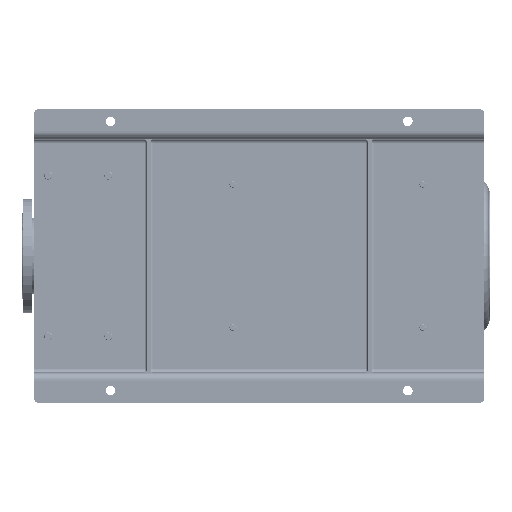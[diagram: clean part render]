
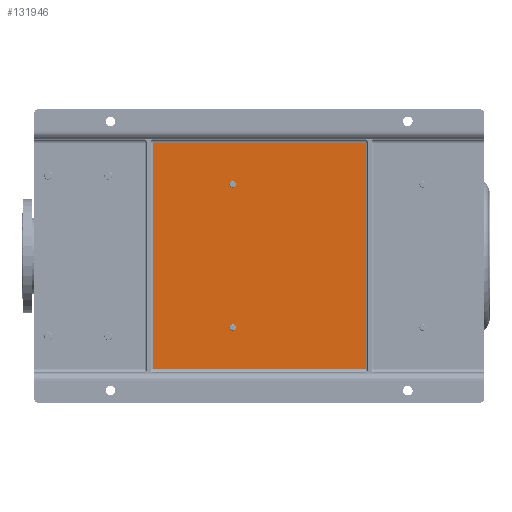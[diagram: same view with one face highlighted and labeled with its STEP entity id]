
A CAD part, front view. The second image highlights one B-rep face of the part: STEP entity #131946.
In plain terms, the highlighted planar face has unit normal (0, -1, 0).
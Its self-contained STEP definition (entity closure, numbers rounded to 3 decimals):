
#3304 = ORIENTED_EDGE ( 'NONE', *, *, #82118, .T. ) ;
#5114 = VERTEX_POINT ( 'NONE', #6444 ) ;
#6444 = CARTESIAN_POINT ( 'NONE',  ( 543., 90., -486. ) ) ;
#7674 = VECTOR ( 'NONE', #151128, 1000. ) ;
#8920 = AXIS2_PLACEMENT_3D ( 'NONE', #171660, #127700, #141768 ) ;
#11557 = CARTESIAN_POINT ( 'NONE',  ( 75., 90., -1120. ) ) ;
#12179 = VERTEX_POINT ( 'NONE', #46705 ) ;
#13181 = CIRCLE ( 'NONE', #114500, 8. ) ;
#14027 = DIRECTION ( 'NONE',  ( 0., 0., -1. ) ) ;
#15426 = EDGE_LOOP ( 'NONE', ( #3304, #104001, #92317, #24736 ) ) ;
#15438 = CARTESIAN_POINT ( 'NONE',  ( 645., 90., -290. ) ) ;
#15703 = EDGE_LOOP ( 'NONE', ( #69291, #165234 ) ) ;
#15785 = DIRECTION ( 'NONE',  ( 0., 1., 0. ) ) ;
#20104 = CIRCLE ( 'NONE', #118547, 8. ) ;
#23729 = CARTESIAN_POINT ( 'NONE',  ( 85., 90., -295. ) ) ;
#24736 = ORIENTED_EDGE ( 'NONE', *, *, #35297, .T. ) ;
#25675 = FACE_BOUND ( 'NONE', #15703, .T. ) ;
#27423 = FACE_BOUND ( 'NONE', #46628, .T. ) ;
#28551 = CARTESIAN_POINT ( 'NONE',  ( 85., 90., -825. ) ) ;
#29176 = FACE_OUTER_BOUND ( 'NONE', #15426, .T. ) ;
#31501 = VECTOR ( 'NONE', #54388, 1000. ) ;
#35297 = EDGE_CURVE ( 'NONE', #12179, #123826, #173335, .T. ) ;
#41283 = DIRECTION ( 'NONE',  ( 0., 1., 0. ) ) ;
#41523 = VERTEX_POINT ( 'NONE', #152762 ) ;
#41541 = CARTESIAN_POINT ( 'NONE',  ( 543., 90., -502. ) ) ;
#46513 = EDGE_CURVE ( 'NONE', #152435, #85852, #148388, .T. ) ;
#46628 = EDGE_LOOP ( 'NONE', ( #148283, #53035 ) ) ;
#46705 = CARTESIAN_POINT ( 'NONE',  ( 645., 90., -295. ) ) ;
#46735 = DIRECTION ( 'NONE',  ( 0., 1., 0. ) ) ;
#53035 = ORIENTED_EDGE ( 'NONE', *, *, #135675, .T. ) ;
#54388 = DIRECTION ( 'NONE',  ( -1., 0., 0. ) ) ;
#56048 = DIRECTION ( 'NONE',  ( 1., 0., 0. ) ) ;
#59698 = CIRCLE ( 'NONE', #8920, 8. ) ;
#66461 = VECTOR ( 'NONE', #137308, 1000. ) ;
#68458 = CARTESIAN_POINT ( 'NONE',  ( 75., 90., -295. ) ) ;
#68629 = LINE ( 'NONE', #83594, #66461 ) ;
#69291 = ORIENTED_EDGE ( 'NONE', *, *, #128184, .T. ) ;
#72271 = CARTESIAN_POINT ( 'NONE',  ( 187., 90., -494. ) ) ;
#72762 = EDGE_CURVE ( 'NONE', #142000, #5114, #20104, .T. ) ;
#75338 = AXIS2_PLACEMENT_3D ( 'NONE', #72271, #46735, #155035 ) ;
#81166 = DIRECTION ( 'NONE',  ( 0., -1., 0. ) ) ;
#82118 = EDGE_CURVE ( 'NONE', #123826, #126593, #68629, .T. ) ;
#83594 = CARTESIAN_POINT ( 'NONE',  ( 85., 90., -830. ) ) ;
#83929 = CARTESIAN_POINT ( 'NONE',  ( 187., 90., -502. ) ) ;
#85852 = VERTEX_POINT ( 'NONE', #83929 ) ;
#91049 = CARTESIAN_POINT ( 'NONE',  ( 187., 90., -486. ) ) ;
#92317 = ORIENTED_EDGE ( 'NONE', *, *, #92701, .T. ) ;
#92701 = EDGE_CURVE ( 'NONE', #41523, #12179, #97416, .T. ) ;
#94544 = VECTOR ( 'NONE', #56048, 1000. ) ;
#97416 = LINE ( 'NONE', #15438, #7674 ) ;
#104001 = ORIENTED_EDGE ( 'NONE', *, *, #158665, .T. ) ;
#108488 = DIRECTION ( 'NONE',  ( 0., 0., -1. ) ) ;
#108903 = LINE ( 'NONE', #114761, #94544 ) ;
#109083 = CARTESIAN_POINT ( 'NONE',  ( 543., 90., -494. ) ) ;
#114500 = AXIS2_PLACEMENT_3D ( 'NONE', #134753, #15785, #14027 ) ;
#114761 = CARTESIAN_POINT ( 'NONE',  ( 75., 90., -825. ) ) ;
#118547 = AXIS2_PLACEMENT_3D ( 'NONE', #109083, #41283, #148713 ) ;
#122179 = AXIS2_PLACEMENT_3D ( 'NONE', #11557, #81166, #108488 ) ;
#123826 = VERTEX_POINT ( 'NONE', #23729 ) ;
#126593 = VERTEX_POINT ( 'NONE', #28551 ) ;
#127700 = DIRECTION ( 'NONE',  ( 0., 1., 0. ) ) ;
#128184 = EDGE_CURVE ( 'NONE', #5114, #142000, #59698, .T. ) ;
#131946 = ADVANCED_FACE ( 'NONE', ( #25675, #27423, #29176 ), #135761, .T. ) ;
#134753 = CARTESIAN_POINT ( 'NONE',  ( 187., 90., -494. ) ) ;
#135675 = EDGE_CURVE ( 'NONE', #85852, #152435, #13181, .T. ) ;
#135761 = PLANE ( 'NONE',  #122179 ) ;
#137308 = DIRECTION ( 'NONE',  ( 0., 0., -1. ) ) ;
#141768 = DIRECTION ( 'NONE',  ( 0., 0., 1. ) ) ;
#142000 = VERTEX_POINT ( 'NONE', #41541 ) ;
#148283 = ORIENTED_EDGE ( 'NONE', *, *, #46513, .T. ) ;
#148388 = CIRCLE ( 'NONE', #75338, 8. ) ;
#148713 = DIRECTION ( 'NONE',  ( 0., 0., 1. ) ) ;
#151128 = DIRECTION ( 'NONE',  ( 0., 0., 1. ) ) ;
#152435 = VERTEX_POINT ( 'NONE', #91049 ) ;
#152762 = CARTESIAN_POINT ( 'NONE',  ( 645., 90., -825. ) ) ;
#155035 = DIRECTION ( 'NONE',  ( 0., 0., -1. ) ) ;
#158665 = EDGE_CURVE ( 'NONE', #126593, #41523, #108903, .T. ) ;
#165234 = ORIENTED_EDGE ( 'NONE', *, *, #72762, .T. ) ;
#171660 = CARTESIAN_POINT ( 'NONE',  ( 543., 90., -494. ) ) ;
#173335 = LINE ( 'NONE', #68458, #31501 ) ;
